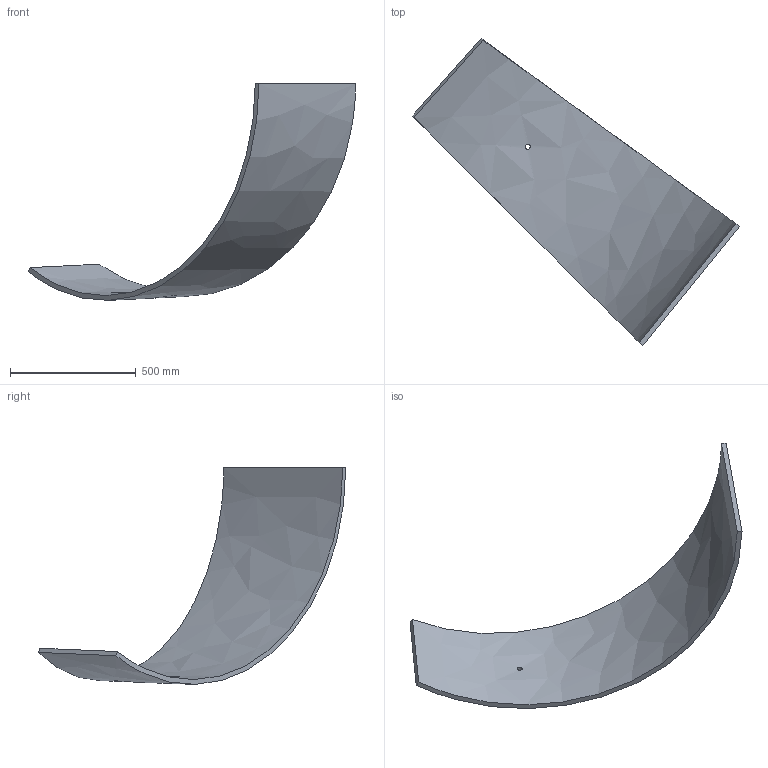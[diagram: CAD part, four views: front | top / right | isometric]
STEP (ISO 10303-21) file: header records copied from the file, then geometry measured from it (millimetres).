
FILE_DESCRIPTION (( 'STEP AP214' ), '1' );
FILE_NAME ('Section 8-A.STEP', '2025-01-09T19:43:28', ( '' ), ( '' ), 'SwSTEP 2.0', 'SolidWorks 2024', '' );
FILE_SCHEMA (( 'AUTOMOTIVE_DESIGN' ));
Length unit declared in the file: inch
Products named in the file (1): Section 8-A
Bounding box: 1302.6 x 1224.14 x 862.54 mm (x, y, z)
Volume: 17954636 mm3; surface area: 1972957.1 mm2
Topology: 1 solids, 1 shells, 7 faces, 15 edges, 10 vertices
Faces by surface type: bspline 6, cylinder 1
Full cylindrical faces by diameter (mm): 19.431 x1
Entity records: 519 total; most frequent: CARTESIAN_POINT 382, ORIENTED_EDGE 28, EDGE_CURVE 14, B_SPLINE_CURVE_WITH_KNOTS 14, EDGE_LOOP 10, VERTEX_POINT 10, FACE_OUTER_BOUND 8, ADVANCED_FACE 7
